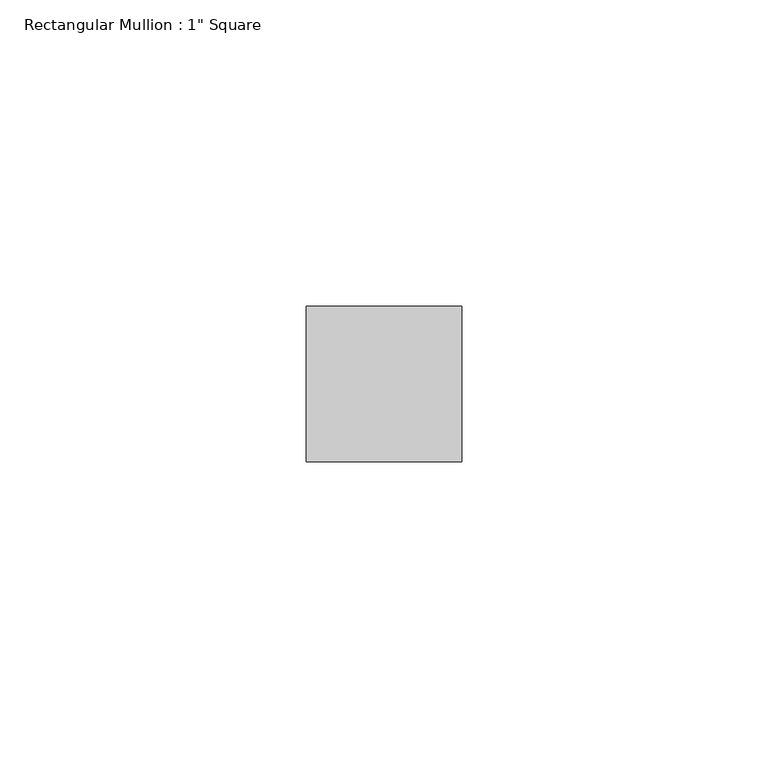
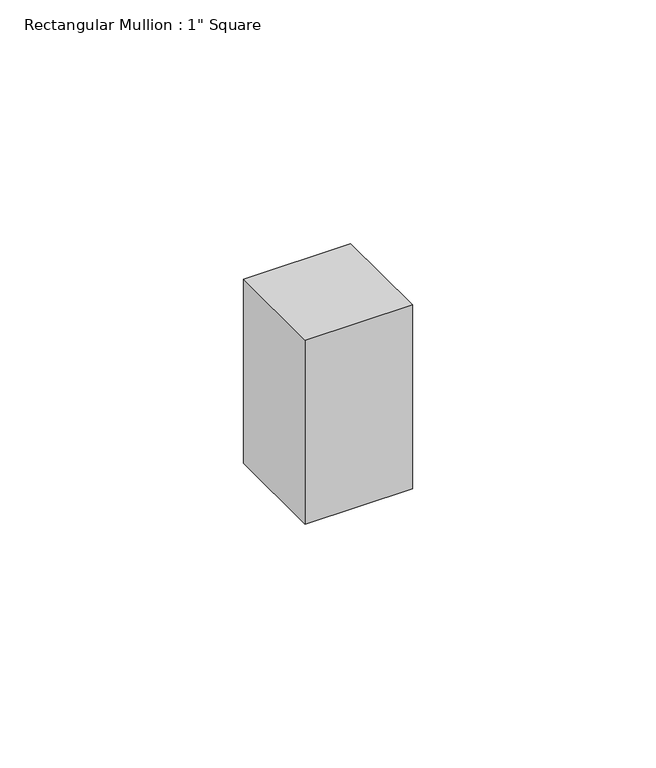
"""IFC4 building model written with IfcOpenShell, lengths in millimetres: member geometry."""

import ifcopenshell
import ifcopenshell.guid

model = None  # the IFC model being written
_history = None  # IfcOwnerHistory: only IFC2X3 demands one
_inside = {}  # id of a spatial element -> (the spatial element, [elements in it])
_under = {}  # id of a project, library or spatial element -> (it, [spatial elements below it])
_declared = {}  # id of a project -> (the project, [libraries it declares])
_typed = {}  # id of a type object -> (the type object, [elements of that type])
_made_of = {}  # id of a material, layer set ... -> (it, [elements and type objects made of it])


def new_model(schema):
    """Start an empty IFC model of exactly this schema.

    Asked for "IFC4X3", IfcOpenShell would pick the latest addendum, in which some entities
    have other attributes; the version numbers below select the first issue.
    IFC2X3 requires an IfcOwnerHistory on every rooted entity: one is made here for all.
    """
    global model, _history
    if schema == "IFC4X3":
        model = ifcopenshell.file(schema_version=(4, 3, 0, 0))
    else:
        model = ifcopenshell.file(schema=schema)
    _inside.clear()
    _under.clear()
    _declared.clear()
    _typed.clear()
    _made_of.clear()
    _history = None
    if model.schema == "IFC2X3":
        org = make("IfcOrganization", Name="unknown")
        user = make(
            "IfcPersonAndOrganization",
            ThePerson=make("IfcPerson", FamilyName="unknown"),
            TheOrganization=org,
        )
        app = make(
            "IfcApplication",
            ApplicationDeveloper=org,
            Version="unknown",
            ApplicationFullName="unknown",
            ApplicationIdentifier="unknown",
        )
        _history = make(
            "IfcOwnerHistory",
            OwningUser=user,
            OwningApplication=app,
            ChangeAction="ADDED",
            CreationDate=0,
        )
    return model


def make(cls, **values):
    """One entity of the class cls with the attributes given. An attribute that is None is left unset."""
    return model.create_entity(
        cls, **{name: value for name, value in values.items() if value is not None}
    )


def rooted(cls, **values):
    """An entity with a GlobalId (a new one), such as an element, a storey or a relation."""
    return make(cls, GlobalId=ifcopenshell.guid.new(), OwnerHistory=_history, **values)


def si_unit(unit_type, name, prefix=None):
    """IfcSIUnit, for example si_unit("LENGTHUNIT", "METRE", prefix="MILLI")."""
    return make("IfcSIUnit", UnitType=unit_type, Prefix=prefix, Name=name)


def assignment(units):
    """IfcUnitAssignment: the units of a project."""
    return None if units is None else make("IfcUnitAssignment", Units=units)


def point(xyz):
    """IfcCartesianPoint."""
    return None if xyz is None else make("IfcCartesianPoint", Coordinates=xyz)


def direction(xyz):
    """IfcDirection."""
    return None if xyz is None else make("IfcDirection", DirectionRatios=xyz)


def frame(location, z_axis=None, x_axis=None):
    """IfcAxis2Placement3D, a coordinate frame: its origin and axes. An axis left out is left unset."""
    return make(
        "IfcAxis2Placement3D",
        Location=point(location),
        Axis=direction(z_axis),
        RefDirection=direction(x_axis),
    )


def origin():
    """The frame at (0, 0, 0) with its axes left unset."""
    return frame((0.0, 0.0, 0.0))


def place(relative_to, where):
    """IfcLocalPlacement: puts the frame where relative to a parent placement (None: the world)."""
    return make(
        "IfcLocalPlacement", PlacementRelTo=relative_to, RelativePlacement=where
    )


def context(
    kind, dimensions, precision=None, world=None, true_north=None, identifier=None
):
    """IfcGeometricRepresentationContext, for example the 3D "Model" context."""
    return make(
        "IfcGeometricRepresentationContext",
        ContextIdentifier=identifier,
        ContextType=kind,
        CoordinateSpaceDimension=dimensions,
        Precision=precision,
        WorldCoordinateSystem=world,
        TrueNorth=true_north,
    )


def project(units=None, contexts=None):
    """IfcProject with its units and contexts."""
    return rooted(
        "IfcProject",
        Name="project",
        RepresentationContexts=contexts,
        UnitsInContext=assignment(units),
    )


def spatial(cls, under=None, at=None, **own):
    """A site, building, storey or space (cls), placed at a placement, below another one or the project."""
    s = rooted(cls, ObjectPlacement=at, **own)
    if under is not None:
        _under.setdefault(under.id(), (under, []))[1].append(s)
    return s


def polyline(points):
    """IfcPolyline through the points."""
    return make("IfcPolyline", Points=[point(p) for p in points])


def outline(outer, holes=None, kind="AREA"):
    """IfcArbitraryClosedProfileDef: a profile drawn as a closed curve; with holes, ...WithVoids."""
    if holes is None:
        return make("IfcArbitraryClosedProfileDef", ProfileType=kind, OuterCurve=outer)
    return make(
        "IfcArbitraryProfileDefWithVoids",
        ProfileType=kind,
        OuterCurve=outer,
        InnerCurves=holes,
    )


def extrude(swept, where, along, depth):
    """IfcExtrudedAreaSolid: the profile swept, set in the frame where, extruded along a direction by depth."""
    return make(
        "IfcExtrudedAreaSolid",
        SweptArea=swept,
        Position=where,
        ExtrudedDirection=direction(along),
        Depth=depth,
    )


def shape(context_of_items, identifier, shape_type, items):
    """IfcShapeRepresentation: the items that make up one representation, for example the "Body"."""
    return make(
        "IfcShapeRepresentation",
        ContextOfItems=context_of_items,
        RepresentationIdentifier=identifier,
        RepresentationType=shape_type,
        Items=items,
    )


def source(mapping_origin, context_of_items, identifier, shape_type, items):
    """IfcRepresentationMap: a shape defined once, which mapped items show again and again."""
    return make(
        "IfcRepresentationMap",
        MappingOrigin=mapping_origin,
        MappedRepresentation=shape(context_of_items, identifier, shape_type, items),
    )


def transform(
    local_origin,
    x_axis=None,
    y_axis=None,
    z_axis=None,
    scale=None,
    scale2=None,
    scale3=None,
    uniform=True,
):
    """IfcCartesianTransformationOperator3D, or its non-uniform kind. x_axis, y_axis, z_axis: its Axis1, 2, 3."""
    if uniform:
        return make(
            "IfcCartesianTransformationOperator3D",
            Axis1=direction(x_axis),
            Axis2=direction(y_axis),
            LocalOrigin=point(local_origin),
            Scale=scale,
            Axis3=direction(z_axis),
        )
    return make(
        "IfcCartesianTransformationOperator3DnonUniform",
        Axis1=direction(x_axis),
        Axis2=direction(y_axis),
        LocalOrigin=point(local_origin),
        Scale=scale,
        Axis3=direction(z_axis),
        Scale2=scale2,
        Scale3=scale3,
    )


def mapped(mapping_source, mapping_target):
    """IfcMappedItem: shows the shape of a source again, moved by a transform."""
    return make(
        "IfcMappedItem", MappingSource=mapping_source, MappingTarget=mapping_target
    )


def made_of(thing, what):
    """Note that an element or type object is made of a material, layer set ...; save() writes the relation."""
    if what is not None:
        _made_of.setdefault(what.id(), (what, []))[1].append(thing)
    return thing


def element(
    cls,
    number,
    at=None,
    inside=None,
    cuts=None,
    type_object=None,
    material=None,
    context=None,
    identifier="Body",
    shape_type=None,
    held_by="IfcProductDefinitionShape",
    body=None,
    shapes=None,
    **own,
):
    """One element of the class cls, such as IfcWall. Its Tag is "e" and its number.

    at: its placement. inside: the storey or other place that contains it. cuts: it is an
    opening in that element (IfcRelVoidsElement). A single representation is given by context,
    identifier, shape_type and body (its items); several are given by shapes. held_by: the class
    of the entity that holds the representations. save() writes the other relations.
    """
    e = rooted(cls, Tag="e%d" % number, ObjectPlacement=at, **own)
    if body is not None:
        shapes = [shape(context, identifier, shape_type, body)]
    if shapes is not None:
        e.Representation = make(held_by, Representations=shapes)
    if inside is not None:
        _inside.setdefault(inside.id(), (inside, []))[1].append(e)
    if cuts is not None:
        rooted(
            "IfcRelVoidsElement", RelatingBuildingElement=cuts, RelatedOpeningElement=e
        )
    if type_object is not None:
        _typed.setdefault(type_object.id(), (type_object, []))[1].append(e)
    return made_of(e, material)


def aggregate(whole, parts):
    """IfcRelAggregates: a whole, such as a stair, and the parts it consists of."""
    return rooted("IfcRelAggregates", RelatingObject=whole, RelatedObjects=parts)


def save(model, path):
    """Write the relations noted so far, then the file.

    IfcRelAggregates (storeys below a building ...), IfcRelContainedInSpatialStructure (elements
    in a storey), IfcRelDefinesByType, IfcRelAssociatesMaterial and IfcRelDeclares: one each for
    every whole, place, type object, material and project.
    """
    for whole, parts in _under.values():
        aggregate(whole, parts)
    for where, things in _inside.values():
        rooted(
            "IfcRelContainedInSpatialStructure",
            RelatedElements=things,
            RelatingStructure=where,
        )
    for kind, things in _typed.values():
        rooted("IfcRelDefinesByType", RelatedObjects=things, RelatingType=kind)
    for what, things in _made_of.values():
        rooted("IfcRelAssociatesMaterial", RelatedObjects=things, RelatingMaterial=what)
    for by, libraries in _declared.values():
        rooted("IfcRelDeclares", RelatingContext=by, RelatedDefinitions=libraries)
    model.write(path)


def member_c7dbaffb(model_context):
    return source(origin(), model_context, "Body", "SweptSolid", [
        extrude(outline(polyline([(0.0, 12.7), (0.0, -12.7), (-25.4, -12.7), (-25.4, 12.7), (0.0, 12.7)])), frame((0.0, 0.0, -46.1094504), z_axis=(0.0, 0.0, 1.0), x_axis=(1.0, 0.0, 0.0)), (0.0, 0.0, 1.0), 46.1094504),
    ])


if __name__ == "__main__":
    model = new_model("IFC4")
    model_context = context("Model", 3, world=origin())
    ifc_project = project(units=[si_unit("LENGTHUNIT", "METRE", prefix="MILLI")], contexts=[model_context])
    site = spatial("IfcSite", under=ifc_project)
    building = spatial("IfcBuilding", under=site)
    placement = place(None, origin())
    member_shape = member_c7dbaffb(model_context)
    element("IfcMember", 1, ObjectType="Rectangular Mullion : 1\" Square", at=placement, inside=building, context=model_context, shape_type="MappedRepresentation", body=[
        mapped(member_shape, transform((0.0, 0.0, 0.0), x_axis=(1.0, 0.0, 0.0), y_axis=(0.0, 1.0, 0.0), z_axis=(0.0, 0.0, 1.0))),
    ])
    save(model, "model.ifc")
